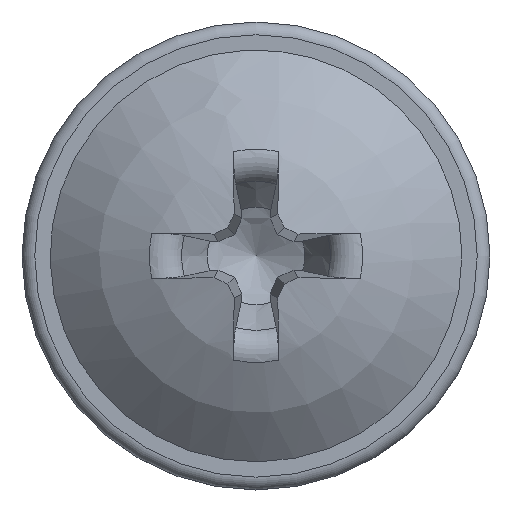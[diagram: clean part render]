
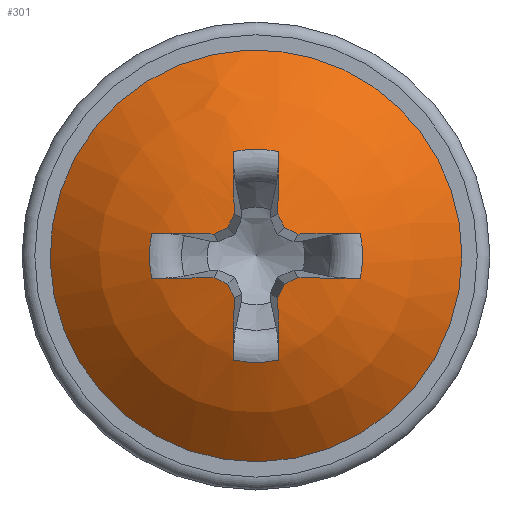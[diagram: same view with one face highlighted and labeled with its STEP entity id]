
A CAD part, top view. The second image highlights one B-rep face of the part: STEP entity #301.
In plain terms, the highlighted spherical face has radius 6.856 mm.
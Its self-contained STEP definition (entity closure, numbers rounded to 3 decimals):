
#262=SPHERICAL_SURFACE('',#1643,6.856);
#273=FACE_BOUND('',#499,.T.);
#274=FACE_BOUND('',#500,.T.);
#301=ADVANCED_FACE('',(#273,#274),#262,.T.);
#499=EDGE_LOOP('',(#684));
#500=EDGE_LOOP('',(#685,#686,#687,#688,#689,#690,#691,#692,#693,#694,#695,
#696,#697,#698,#699,#700,#701,#702,#703,#704));
#610=CIRCLE('',#1622,4.84);
#611=CIRCLE('',#1623,6.855);
#612=CIRCLE('',#1624,2.507);
#613=CIRCLE('',#1625,6.855);
#614=CIRCLE('',#1626,6.854);
#615=CIRCLE('',#1627,6.854);
#616=CIRCLE('',#1628,6.855);
#617=CIRCLE('',#1629,2.507);
#618=CIRCLE('',#1630,6.855);
#619=CIRCLE('',#1631,6.854);
#620=CIRCLE('',#1632,6.854);
#621=CIRCLE('',#1633,6.855);
#622=CIRCLE('',#1634,2.507);
#623=CIRCLE('',#1635,6.855);
#624=CIRCLE('',#1636,6.854);
#625=CIRCLE('',#1637,6.854);
#626=CIRCLE('',#1638,6.855);
#627=CIRCLE('',#1639,2.507);
#628=CIRCLE('',#1640,6.855);
#629=CIRCLE('',#1641,6.854);
#630=CIRCLE('',#1642,6.854);
#684=ORIENTED_EDGE('',*,*,#1294,.T.);
#685=ORIENTED_EDGE('',*,*,#1295,.F.);
#686=ORIENTED_EDGE('',*,*,#1296,.T.);
#687=ORIENTED_EDGE('',*,*,#1297,.F.);
#688=ORIENTED_EDGE('',*,*,#1298,.F.);
#689=ORIENTED_EDGE('',*,*,#1299,.F.);
#690=ORIENTED_EDGE('',*,*,#1300,.F.);
#691=ORIENTED_EDGE('',*,*,#1301,.T.);
#692=ORIENTED_EDGE('',*,*,#1302,.F.);
#693=ORIENTED_EDGE('',*,*,#1303,.F.);
#694=ORIENTED_EDGE('',*,*,#1304,.F.);
#695=ORIENTED_EDGE('',*,*,#1305,.F.);
#696=ORIENTED_EDGE('',*,*,#1306,.T.);
#697=ORIENTED_EDGE('',*,*,#1307,.F.);
#698=ORIENTED_EDGE('',*,*,#1308,.F.);
#699=ORIENTED_EDGE('',*,*,#1309,.F.);
#700=ORIENTED_EDGE('',*,*,#1310,.F.);
#701=ORIENTED_EDGE('',*,*,#1311,.T.);
#702=ORIENTED_EDGE('',*,*,#1312,.F.);
#703=ORIENTED_EDGE('',*,*,#1313,.F.);
#704=ORIENTED_EDGE('',*,*,#1314,.F.);
#1148=VERTEX_POINT('',#3363);
#1149=VERTEX_POINT('',#3365);
#1150=VERTEX_POINT('',#3366);
#1151=VERTEX_POINT('',#3368);
#1152=VERTEX_POINT('',#3370);
#1153=VERTEX_POINT('',#3372);
#1154=VERTEX_POINT('',#3374);
#1155=VERTEX_POINT('',#3376);
#1156=VERTEX_POINT('',#3378);
#1157=VERTEX_POINT('',#3380);
#1158=VERTEX_POINT('',#3382);
#1159=VERTEX_POINT('',#3384);
#1160=VERTEX_POINT('',#3386);
#1161=VERTEX_POINT('',#3388);
#1162=VERTEX_POINT('',#3390);
#1163=VERTEX_POINT('',#3392);
#1164=VERTEX_POINT('',#3394);
#1165=VERTEX_POINT('',#3396);
#1166=VERTEX_POINT('',#3398);
#1167=VERTEX_POINT('',#3400);
#1168=VERTEX_POINT('',#3402);
#1294=EDGE_CURVE('',#1148,#1148,#610,.T.);
#1295=EDGE_CURVE('',#1149,#1150,#611,.T.);
#1296=EDGE_CURVE('',#1149,#1151,#612,.T.);
#1297=EDGE_CURVE('',#1152,#1151,#613,.T.);
#1298=EDGE_CURVE('',#1153,#1152,#614,.T.);
#1299=EDGE_CURVE('',#1154,#1153,#615,.T.);
#1300=EDGE_CURVE('',#1155,#1154,#616,.T.);
#1301=EDGE_CURVE('',#1155,#1156,#617,.T.);
#1302=EDGE_CURVE('',#1157,#1156,#618,.T.);
#1303=EDGE_CURVE('',#1158,#1157,#619,.T.);
#1304=EDGE_CURVE('',#1159,#1158,#620,.T.);
#1305=EDGE_CURVE('',#1160,#1159,#621,.T.);
#1306=EDGE_CURVE('',#1160,#1161,#622,.T.);
#1307=EDGE_CURVE('',#1162,#1161,#623,.T.);
#1308=EDGE_CURVE('',#1163,#1162,#624,.T.);
#1309=EDGE_CURVE('',#1164,#1163,#625,.T.);
#1310=EDGE_CURVE('',#1165,#1164,#626,.T.);
#1311=EDGE_CURVE('',#1165,#1166,#627,.T.);
#1312=EDGE_CURVE('',#1167,#1166,#628,.T.);
#1313=EDGE_CURVE('',#1168,#1167,#629,.T.);
#1314=EDGE_CURVE('',#1150,#1168,#630,.T.);
#1622=AXIS2_PLACEMENT_3D('',#3362,#1709,#1710);
#1623=AXIS2_PLACEMENT_3D('',#3364,#1711,#1712);
#1624=AXIS2_PLACEMENT_3D('',#3367,#1713,#1714);
#1625=AXIS2_PLACEMENT_3D('',#3369,#1715,#1716);
#1626=AXIS2_PLACEMENT_3D('',#3371,#1717,#1718);
#1627=AXIS2_PLACEMENT_3D('',#3373,#1719,#1720);
#1628=AXIS2_PLACEMENT_3D('',#3375,#1721,#1722);
#1629=AXIS2_PLACEMENT_3D('',#3377,#1723,#1724);
#1630=AXIS2_PLACEMENT_3D('',#3379,#1725,#1726);
#1631=AXIS2_PLACEMENT_3D('',#3381,#1727,#1728);
#1632=AXIS2_PLACEMENT_3D('',#3383,#1729,#1730);
#1633=AXIS2_PLACEMENT_3D('',#3385,#1731,#1732);
#1634=AXIS2_PLACEMENT_3D('',#3387,#1733,#1734);
#1635=AXIS2_PLACEMENT_3D('',#3389,#1735,#1736);
#1636=AXIS2_PLACEMENT_3D('',#3391,#1737,#1738);
#1637=AXIS2_PLACEMENT_3D('',#3393,#1739,#1740);
#1638=AXIS2_PLACEMENT_3D('',#3395,#1741,#1742);
#1639=AXIS2_PLACEMENT_3D('',#3397,#1743,#1744);
#1640=AXIS2_PLACEMENT_3D('',#3399,#1745,#1746);
#1641=AXIS2_PLACEMENT_3D('',#3401,#1747,#1748);
#1642=AXIS2_PLACEMENT_3D('',#3403,#1749,#1750);
#1643=AXIS2_PLACEMENT_3D('',#3404,#1751,#1752);
#1709=DIRECTION('',(0.,0.,1.));
#1710=DIRECTION('',(1.,0.,0.));
#1711=DIRECTION('',(-0.996,-0.035,0.087));
#1712=DIRECTION('',(0.087,0.,0.996));
#1713=DIRECTION('',(0.,0.,-1.));
#1714=DIRECTION('',(-1.,0.,0.));
#1715=DIRECTION('',(0.996,-0.035,0.087));
#1716=DIRECTION('',(0.087,0.,-0.996));
#1717=DIRECTION('',(0.902,0.42,0.1));
#1718=DIRECTION('',(-0.423,0.906,0.));
#1719=DIRECTION('',(0.42,0.902,0.1));
#1720=DIRECTION('',(-0.906,0.423,0.));
#1721=DIRECTION('',(-0.035,0.996,0.087));
#1722=DIRECTION('',(0.,-0.087,0.996));
#1723=DIRECTION('',(0.,0.,-1.));
#1724=DIRECTION('',(-1.,0.,0.));
#1725=DIRECTION('',(-0.035,-0.996,0.087));
#1726=DIRECTION('',(0.,-0.087,-0.996));
#1727=DIRECTION('',(0.42,-0.902,0.1));
#1728=DIRECTION('',(0.906,0.423,0.));
#1729=DIRECTION('',(0.902,-0.42,0.1));
#1730=DIRECTION('',(0.423,0.906,0.));
#1731=DIRECTION('',(0.996,0.035,0.087));
#1732=DIRECTION('',(0.087,0.,-0.996));
#1733=DIRECTION('',(0.,0.,-1.));
#1734=DIRECTION('',(-1.,0.,0.));
#1735=DIRECTION('',(-0.996,0.035,0.087));
#1736=DIRECTION('',(0.087,0.,0.996));
#1737=DIRECTION('',(-0.902,-0.42,0.1));
#1738=DIRECTION('',(0.423,-0.906,0.));
#1739=DIRECTION('',(-0.42,-0.902,0.1));
#1740=DIRECTION('',(0.906,-0.423,0.));
#1741=DIRECTION('',(0.035,-0.996,0.087));
#1742=DIRECTION('',(0.,-0.087,-0.996));
#1743=DIRECTION('',(0.,0.,-1.));
#1744=DIRECTION('',(-1.,0.,0.));
#1745=DIRECTION('',(0.035,0.996,0.087));
#1746=DIRECTION('',(0.,-0.087,0.996));
#1747=DIRECTION('',(-0.42,0.902,0.1));
#1748=DIRECTION('',(-0.906,-0.423,0.));
#1749=DIRECTION('',(-0.902,0.42,0.1));
#1750=DIRECTION('',(-0.423,-0.906,0.));
#1751=DIRECTION('',(0.,0.,1.));
#1752=DIRECTION('',(0.,1.,0.));
#3362=CARTESIAN_POINT('',(0.,0.,1.2));
#3363=CARTESIAN_POINT('',(4.84,0.,1.2));
#3364=CARTESIAN_POINT('',(-0.114,-0.004,-3.646));
#3365=CARTESIAN_POINT('',(0.529,-2.45,2.725));
#3366=CARTESIAN_POINT('',(0.512,-0.987,3.109));
#3367=CARTESIAN_POINT('',(0.,0.,2.725));
#3368=CARTESIAN_POINT('',(-0.529,-2.45,2.725));
#3369=CARTESIAN_POINT('',(0.114,-0.004,-3.646));
#3370=CARTESIAN_POINT('',(-0.512,-0.987,3.109));
#3371=CARTESIAN_POINT('',(-0.179,-0.084,-3.676));
#3372=CARTESIAN_POINT('',(-0.665,-0.665,3.135));
#3373=CARTESIAN_POINT('',(-0.084,-0.179,-3.676));
#3374=CARTESIAN_POINT('',(-0.987,-0.512,3.109));
#3375=CARTESIAN_POINT('',(-0.004,0.114,-3.646));
#3376=CARTESIAN_POINT('',(-2.45,-0.529,2.725));
#3377=CARTESIAN_POINT('',(0.,0.,2.725));
#3378=CARTESIAN_POINT('',(-2.45,0.529,2.725));
#3379=CARTESIAN_POINT('',(-0.004,-0.114,-3.646));
#3380=CARTESIAN_POINT('',(-0.987,0.512,3.109));
#3381=CARTESIAN_POINT('',(-0.084,0.179,-3.676));
#3382=CARTESIAN_POINT('',(-0.665,0.665,3.135));
#3383=CARTESIAN_POINT('',(-0.179,0.084,-3.676));
#3384=CARTESIAN_POINT('',(-0.512,0.987,3.109));
#3385=CARTESIAN_POINT('',(0.114,0.004,-3.646));
#3386=CARTESIAN_POINT('',(-0.529,2.45,2.725));
#3387=CARTESIAN_POINT('',(0.,0.,2.725));
#3388=CARTESIAN_POINT('',(0.529,2.45,2.725));
#3389=CARTESIAN_POINT('',(-0.114,0.004,-3.646));
#3390=CARTESIAN_POINT('',(0.512,0.987,3.109));
#3391=CARTESIAN_POINT('',(0.179,0.084,-3.676));
#3392=CARTESIAN_POINT('',(0.665,0.665,3.135));
#3393=CARTESIAN_POINT('',(0.084,0.179,-3.676));
#3394=CARTESIAN_POINT('',(0.987,0.512,3.109));
#3395=CARTESIAN_POINT('',(0.004,-0.114,-3.646));
#3396=CARTESIAN_POINT('',(2.45,0.529,2.725));
#3397=CARTESIAN_POINT('',(0.,0.,2.725));
#3398=CARTESIAN_POINT('',(2.45,-0.529,2.725));
#3399=CARTESIAN_POINT('',(0.004,0.114,-3.646));
#3400=CARTESIAN_POINT('',(0.987,-0.512,3.109));
#3401=CARTESIAN_POINT('',(0.084,-0.179,-3.676));
#3402=CARTESIAN_POINT('',(0.665,-0.665,3.135));
#3403=CARTESIAN_POINT('',(0.179,-0.084,-3.676));
#3404=CARTESIAN_POINT('',(0.,0.,-3.656));
